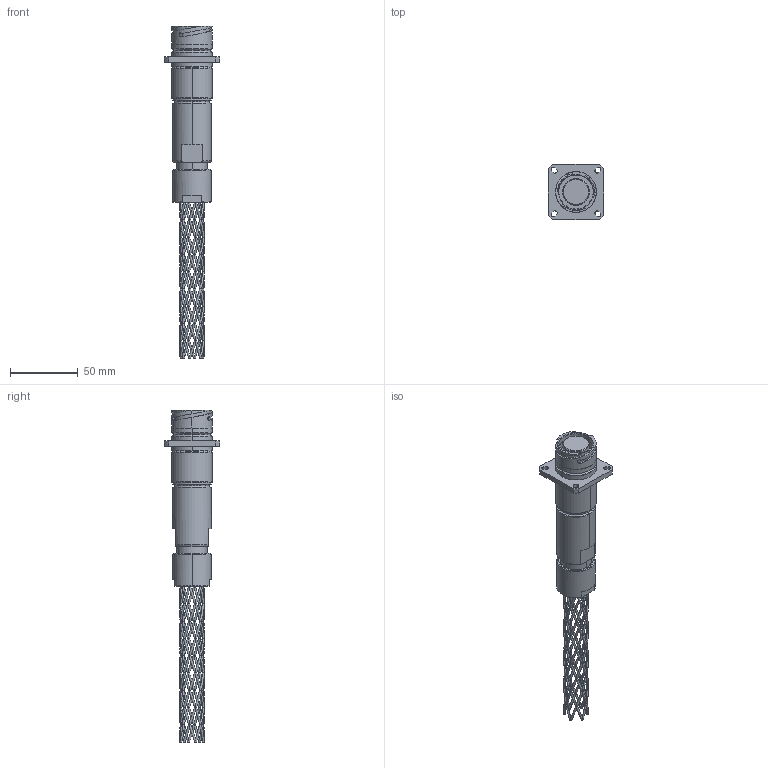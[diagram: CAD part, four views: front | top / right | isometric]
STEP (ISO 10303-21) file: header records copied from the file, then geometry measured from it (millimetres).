
FILE_DESCRIPTION (( 'STEP AP214' ), '1' );
FILE_NAME ('QLINK-RFBX-17XX-GXXX-RA.STEP', '2025-12-16T16:09:21', ( '' ), ( '' ), 'SwSTEP 2.0', 'SolidWorks 2024', '' );
FILE_SCHEMA (( 'AUTOMOTIVE_DESIGN' ));
Products named in the file (1): QLINK-RFBX-17XX-GXXX-RA
Bounding box: 40.51 x 40.51 x 244.36 mm (x, y, z)
Volume: 85248 mm3; surface area: 27486.3 mm2
Topology: 2 solids, 2 shells, 415 faces, 1138 edges, 639 vertices
Faces by surface type: bspline 233, cylinder 75, plane 62, torus 26, cone 19
Entity records: 107689 total; most frequent: CARTESIAN_POINT 99738, ORIENTED_EDGE 2276, EDGE_CURVE 1138, DIRECTION 1060, VERTEX_POINT 639, AXIS2_PLACEMENT_3D 450, EDGE_LOOP 445, ADVANCED_FACE 415
